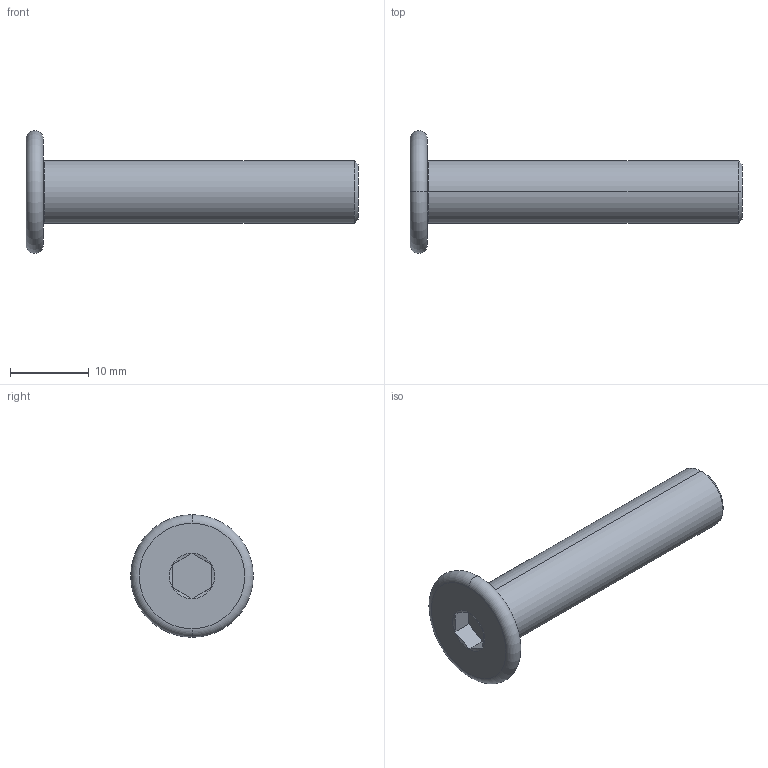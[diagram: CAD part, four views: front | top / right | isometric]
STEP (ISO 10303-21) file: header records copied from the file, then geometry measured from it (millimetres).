
FILE_DESCRIPTION (( 'STEP AP203' ), '1' );
FILE_NAME ('LGD-304M-M8x40.STEP', '2026-08-13T13:24:18', ( '' ), ( '' ), 'SwSTEP 2.0', 'SolidWorks 2020', '' );
FILE_SCHEMA (( 'CONFIG_CONTROL_DESIGN' ));
Length unit declared in the file: millimetre
Products named in the file (1): LGD-304M-M8x40
Bounding box: 42.2 x 15.6 x 15.6 mm (x, y, z)
Volume: 2349.4 mm3; surface area: 1480.5 mm2
Topology: 1 solids, 1 shells, 24 faces, 44 edges, 24 vertices
Faces by surface type: plane 10, cone 8, torus 4, cylinder 2
Entity records: 673 total; most frequent: CARTESIAN_POINT 119, DIRECTION 110, ORIENTED_EDGE 88, AXIS2_PLACEMENT_3D 47, EDGE_CURVE 44, EDGE_LOOP 26, VERTEX_POINT 24, FACE_OUTER_BOUND 24
